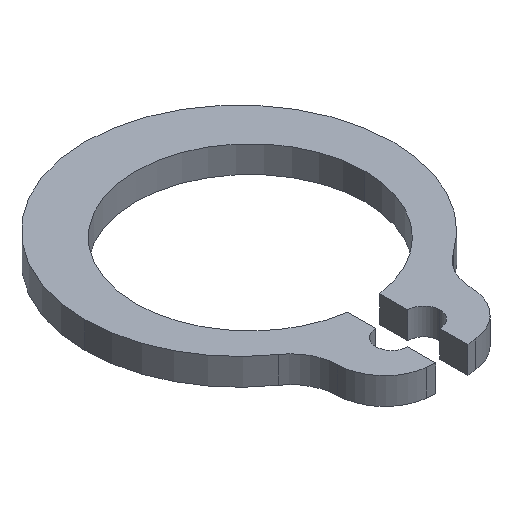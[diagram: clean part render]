
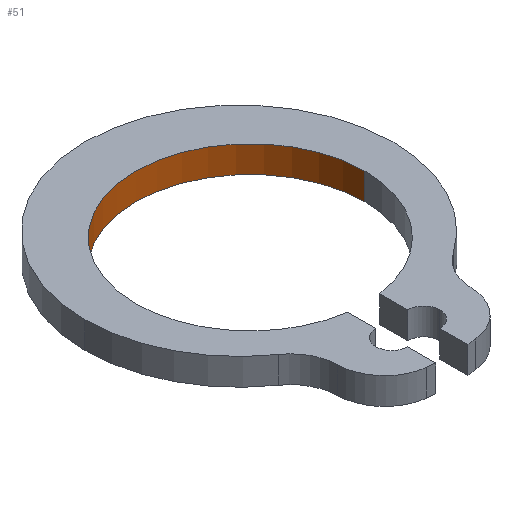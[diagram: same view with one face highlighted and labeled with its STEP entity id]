
A CAD part, isometric view. The second image highlights one B-rep face of the part: STEP entity #51.
In plain terms, the highlighted cylindrical face has radius 4.3 mm (diameter 8.6 mm), a partial arc.
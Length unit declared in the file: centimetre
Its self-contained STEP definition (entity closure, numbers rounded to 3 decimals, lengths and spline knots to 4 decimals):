
#26 = VERTEX_POINT ( 'NONE', #208 ) ;
#41 = VERTEX_POINT ( 'NONE', #238 ) ;
#42 = ORIENTED_EDGE ( 'NONE', *, *, #68, .T. ) ;
#43 = EDGE_CURVE ( 'NONE', #26, #44, #237, .T. ) ;
#44 = VERTEX_POINT ( 'NONE', #232 ) ;
#45 = ORIENTED_EDGE ( 'NONE', *, *, #43, .T. ) ;
#47 = ORIENTED_EDGE ( 'NONE', *, *, #57, .F. ) ;
#49 = VERTEX_POINT ( 'NONE', #291 ) ;
#51 = ADVANCED_FACE ( 'NONE', ( #289 ), #287, .F. ) ;
#55 = EDGE_LOOP ( 'NONE', ( #47, #45, #42, #69 ) ) ;
#57 = EDGE_CURVE ( 'NONE', #26, #49, #279, .T. ) ;
#67 = EDGE_CURVE ( 'NONE', #49, #41, #315, .T. ) ;
#68 = EDGE_CURVE ( 'NONE', #44, #41, #310, .T. ) ;
#69 = ORIENTED_EDGE ( 'NONE', *, *, #67, .F. ) ;
#208 = CARTESIAN_POINT ( 'NONE',  ( -0.43, -0.45, 0. ) ) ;
#232 = CARTESIAN_POINT ( 'NONE',  ( 0.43, -0.45, 0. ) ) ;
#233 = DIRECTION ( 'NONE',  ( 1., 0., 0. ) ) ;
#234 = DIRECTION ( 'NONE',  ( 0., 0., -1. ) ) ;
#235 = CARTESIAN_POINT ( 'NONE',  ( 0., -0.45, 0. ) ) ;
#236 = AXIS2_PLACEMENT_3D ( 'NONE', #235, #234, #233 ) ;
#237 = CIRCLE ( 'NONE', #236, 0.43 ) ;
#238 = CARTESIAN_POINT ( 'NONE',  ( 0.43, -0.45, 0.1 ) ) ;
#276 = DIRECTION ( 'NONE',  ( 0., 0., 1. ) ) ;
#277 = VECTOR ( 'NONE', #276, 100. ) ;
#278 = CARTESIAN_POINT ( 'NONE',  ( -0.43, -0.45, 0. ) ) ;
#279 = LINE ( 'NONE', #278, #277 ) ;
#284 = DIRECTION ( 'NONE',  ( 1., 0., 0. ) ) ;
#285 = DIRECTION ( 'NONE',  ( 0., 0., 1. ) ) ;
#286 = AXIS2_PLACEMENT_3D ( 'NONE', #288, #285, #284 ) ;
#287 = CYLINDRICAL_SURFACE ( 'NONE', #286, 0.43 ) ;
#288 = CARTESIAN_POINT ( 'NONE',  ( 0., -0.45, 0. ) ) ;
#289 = FACE_OUTER_BOUND ( 'NONE', #55, .T. ) ;
#291 = CARTESIAN_POINT ( 'NONE',  ( -0.43, -0.45, 0.1 ) ) ;
#307 = DIRECTION ( 'NONE',  ( 0., 0., 1. ) ) ;
#308 = VECTOR ( 'NONE', #307, 100. ) ;
#309 = CARTESIAN_POINT ( 'NONE',  ( 0.43, -0.45, 0. ) ) ;
#310 = LINE ( 'NONE', #309, #308 ) ;
#311 = DIRECTION ( 'NONE',  ( 1., 0., 0. ) ) ;
#312 = DIRECTION ( 'NONE',  ( 0., 0., -1. ) ) ;
#313 = CARTESIAN_POINT ( 'NONE',  ( 0., -0.45, 0.1 ) ) ;
#314 = AXIS2_PLACEMENT_3D ( 'NONE', #313, #312, #311 ) ;
#315 = CIRCLE ( 'NONE', #314, 0.43 ) ;
